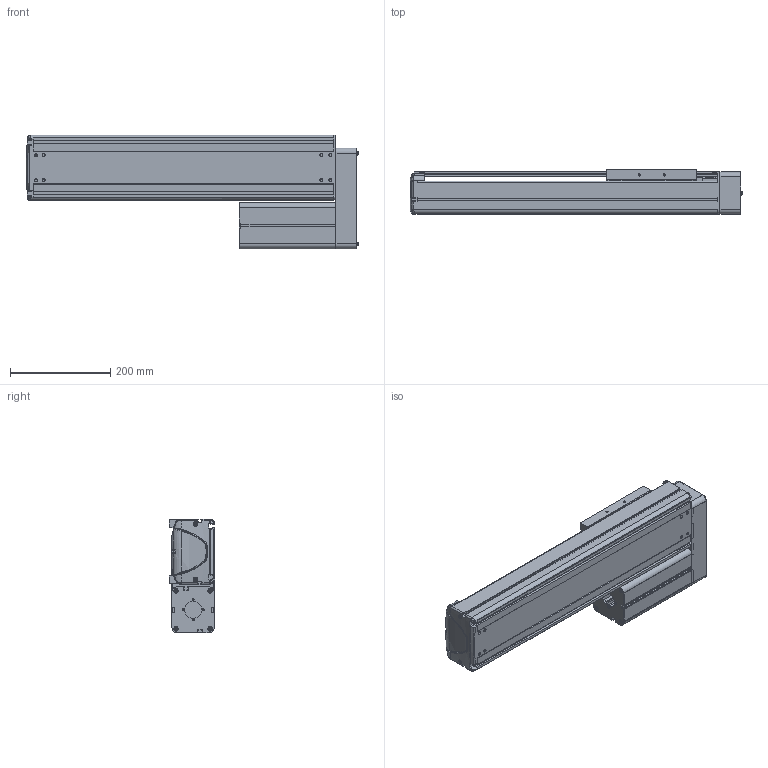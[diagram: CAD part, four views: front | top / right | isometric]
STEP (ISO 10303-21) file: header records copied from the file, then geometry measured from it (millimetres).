
FILE_DESCRIPTION((''),'2;1');
FILE_NAME('BE30E-UL-L_B-35_IGS_PRT','2017-06-17T',(' '),(''),'PRO/ENGINEER BY PARAMETRIC TECHNOLOGY CORPORATION, 2015030','PRO/ENGINEER BY PARAMETRIC TECHNOLOGY CORPORATION, 2015030','');
FILE_SCHEMA(('CONFIG_CONTROL_DESIGN'));
Products named in the file (1): BE30E-UL-L_B-35_IGS_PRT
Bounding box: 661.9 x 89.8 x 227 mm (x, y, z)
Volume: 2586878.7 mm3; surface area: 1125732.9 mm2
Topology: 2 solids, 112 shells, 1997 faces, 5371 edges, 3484 vertices
Faces by surface type: plane 998, cylinder 805, cone 101, torus 39, bspline 30, sphere 24
Entity records: 64557 total; most frequent: CARTESIAN_POINT 13660, DIRECTION 10755, ORIENTED_EDGE 10250, EDGE_CURVE 5333, AXIS2_PLACEMENT_3D 3770, VERTEX_POINT 3484, VECTOR 3215, LINE 3215
